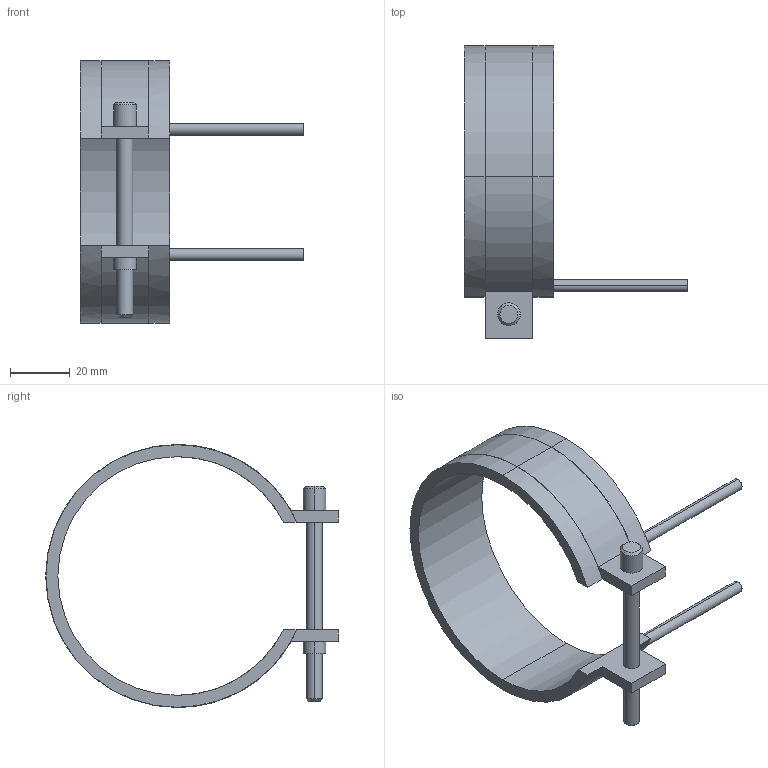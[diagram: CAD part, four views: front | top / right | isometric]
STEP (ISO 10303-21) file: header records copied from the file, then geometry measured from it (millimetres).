
FILE_DESCRIPTION(('CATIA V5 STEP Exchange'),'2;1');
FILE_NAME('C:\Users\Utente\Desktop\IO LAVORO\3D X SITO CF\X SITO\PLASTICA\RF2\14080030.stp','2021-04-03T08:05:47+00:00',('none'),('none'),'CATIA Version 5 Release 20 GA (IN-10)','CATIA V5 STEP AP203','none');
FILE_SCHEMA(('CONFIG_CONTROL_DESIGN'));
Length unit declared in the file: millimetre
Products named in the file (1): 14080030
Bounding box: 75 x 98.1 x 88.2 mm (x, y, z)
Volume: 32297.4 mm3; surface area: 19130 mm2
Topology: 1 solids, 1 shells, 45 faces, 116 edges, 76 vertices
Faces by surface type: cylinder 24, plane 17, cone 4
Entity records: 1418 total; most frequent: CARTESIAN_POINT 296, ORIENTED_EDGE 232, DIRECTION 194, EDGE_CURVE 116, AXIS2_PLACEMENT_3D 102, VERTEX_POINT 76, CIRCLE 60, VECTOR 52
